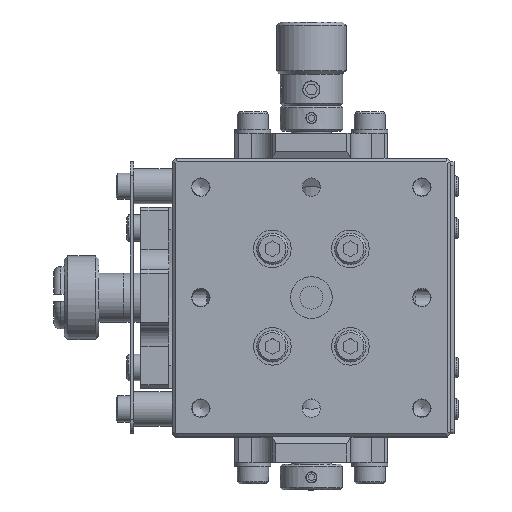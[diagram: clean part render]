
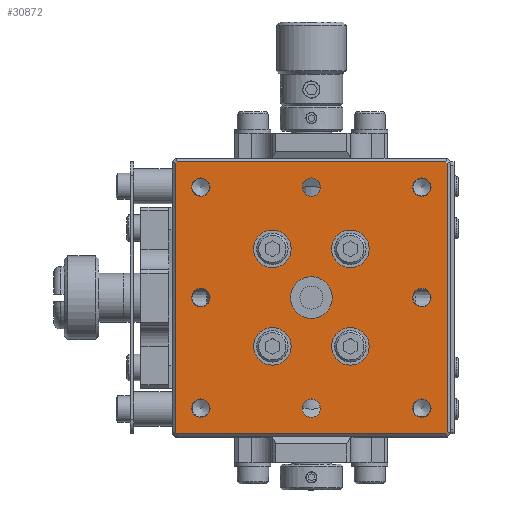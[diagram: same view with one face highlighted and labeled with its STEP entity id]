
A CAD part, top view. The second image highlights one B-rep face of the part: STEP entity #30872.
In plain terms, the highlighted planar face has unit normal (0, 0, 1).
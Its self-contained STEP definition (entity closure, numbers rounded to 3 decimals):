
#29542=CARTESIAN_POINT('',(3.,0.0,-20.0));
#29543=VERTEX_POINT('',#29542);
#29544=CARTESIAN_POINT('',(0.0,0.0,-20.0));
#29545=DIRECTION('',(0.0,0.0,-1.0));
#29546=DIRECTION('',(1.0,0.0,0.0));
#29547=AXIS2_PLACEMENT_3D('',#29544,#29545,#29546);
#29548=CIRCLE('',#29547,3.);
#29549=EDGE_CURVE('',#29543,#29543,#29548,.T.);
#29643=CARTESIAN_POINT('',(8.3,7.,-20.0));
#29644=VERTEX_POINT('',#29643);
#29645=CARTESIAN_POINT('',(5.6,7.,-20.0));
#29646=DIRECTION('',(0.0,0.0,-1.0));
#29647=DIRECTION('',(1.0,0.0,0.0));
#29648=AXIS2_PLACEMENT_3D('',#29645,#29646,#29647);
#29649=CIRCLE('',#29648,2.7);
#29650=EDGE_CURVE('',#29644,#29644,#29649,.T.);
#29712=CARTESIAN_POINT('',(-2.9,7.,-20.0));
#29713=VERTEX_POINT('',#29712);
#29714=CARTESIAN_POINT('',(-5.6,7.,-20.0));
#29715=DIRECTION('',(0.0,0.0,-1.0));
#29716=DIRECTION('',(1.0,0.0,0.0));
#29717=AXIS2_PLACEMENT_3D('',#29714,#29715,#29716);
#29718=CIRCLE('',#29717,2.7);
#29719=EDGE_CURVE('',#29713,#29713,#29718,.T.);
#29793=CARTESIAN_POINT('',(-8.3,-7.,-20.0));
#29794=VERTEX_POINT('',#29793);
#29795=CARTESIAN_POINT('',(-5.6,-7.,-20.0));
#29796=DIRECTION('',(0.0,0.0,-1.0));
#29797=DIRECTION('',(-1.0,0.0,0.0));
#29798=AXIS2_PLACEMENT_3D('',#29795,#29796,#29797);
#29799=CIRCLE('',#29798,2.7);
#29800=EDGE_CURVE('',#29794,#29794,#29799,.T.);
#29834=CARTESIAN_POINT('',(2.9,-7.,-20.0));
#29835=VERTEX_POINT('',#29834);
#29836=CARTESIAN_POINT('',(5.6,-7.,-20.0));
#29837=DIRECTION('',(0.0,0.0,-1.0));
#29838=DIRECTION('',(-1.0,0.0,0.0));
#29839=AXIS2_PLACEMENT_3D('',#29836,#29837,#29838);
#29840=CIRCLE('',#29839,2.7);
#29841=EDGE_CURVE('',#29835,#29835,#29840,.T.);
#29903=CARTESIAN_POINT('',(-14.554,-15.875,-20.0));
#29904=VERTEX_POINT('',#29903);
#29905=CARTESIAN_POINT('',(-15.875,-15.875,-20.0));
#29906=DIRECTION('',(0.0,0.0,-1.0));
#29907=DIRECTION('',(1.0,0.0,0.0));
#29908=AXIS2_PLACEMENT_3D('',#29905,#29906,#29907);
#29909=CIRCLE('',#29908,1.321);
#29910=EDGE_CURVE('',#29904,#29904,#29909,.T.);
#29988=CARTESIAN_POINT('',(15.875,-14.554,-20.0));
#29989=VERTEX_POINT('',#29988);
#29990=CARTESIAN_POINT('',(15.875,-15.875,-20.0));
#29991=DIRECTION('',(0.0,0.0,-1.0));
#29992=DIRECTION('',(0.0,1.0,0.0));
#29993=AXIS2_PLACEMENT_3D('',#29990,#29991,#29992);
#29994=CIRCLE('',#29993,1.321);
#29995=EDGE_CURVE('',#29989,#29989,#29994,.T.);
#30073=CARTESIAN_POINT('',(14.554,15.875,-20.0));
#30074=VERTEX_POINT('',#30073);
#30075=CARTESIAN_POINT('',(15.875,15.875,-20.0));
#30076=DIRECTION('',(0.0,0.0,-1.0));
#30077=DIRECTION('',(-1.0,0.0,0.0));
#30078=AXIS2_PLACEMENT_3D('',#30075,#30076,#30077);
#30079=CIRCLE('',#30078,1.321);
#30080=EDGE_CURVE('',#30074,#30074,#30079,.T.);
#30158=CARTESIAN_POINT('',(-15.875,14.554,-20.0));
#30159=VERTEX_POINT('',#30158);
#30160=CARTESIAN_POINT('',(-15.875,15.875,-20.0));
#30161=DIRECTION('',(0.0,0.0,-1.0));
#30162=DIRECTION('',(0.0,-1.0,0.0));
#30163=AXIS2_PLACEMENT_3D('',#30160,#30161,#30162);
#30164=CIRCLE('',#30163,1.321);
#30165=EDGE_CURVE('',#30159,#30159,#30164,.T.);
#30246=CARTESIAN_POINT('',(1.321,-15.875,-20.0));
#30247=VERTEX_POINT('',#30246);
#30248=CARTESIAN_POINT('',(0.0,-15.875,-20.0));
#30249=DIRECTION('',(0.0,0.0,-1.0));
#30250=DIRECTION('',(1.0,0.0,0.0));
#30251=AXIS2_PLACEMENT_3D('',#30248,#30249,#30250);
#30252=CIRCLE('',#30251,1.321);
#30253=EDGE_CURVE('',#30247,#30247,#30252,.T.);
#30287=CARTESIAN_POINT('',(-1.321,15.875,-20.0));
#30288=VERTEX_POINT('',#30287);
#30289=CARTESIAN_POINT('',(0.,15.875,-20.0));
#30290=DIRECTION('',(0.0,0.0,-1.0));
#30291=DIRECTION('',(-1.0,0.0,0.0));
#30292=AXIS2_PLACEMENT_3D('',#30289,#30290,#30291);
#30293=CIRCLE('',#30292,1.321);
#30294=EDGE_CURVE('',#30288,#30288,#30293,.T.);
#30466=CARTESIAN_POINT('',(17.196,0.0,-20.0));
#30467=VERTEX_POINT('',#30466);
#30468=CARTESIAN_POINT('',(15.875,0.0,-20.0));
#30469=DIRECTION('',(0.0,0.0,-1.0));
#30470=DIRECTION('',(1.0,0.0,0.0));
#30471=AXIS2_PLACEMENT_3D('',#30468,#30469,#30470);
#30472=CIRCLE('',#30471,1.321);
#30473=EDGE_CURVE('',#30467,#30467,#30472,.T.);
#30645=CARTESIAN_POINT('',(-17.196,0.,-20.0));
#30646=VERTEX_POINT('',#30645);
#30647=CARTESIAN_POINT('',(-15.875,0.,-20.0));
#30648=DIRECTION('',(0.0,0.0,-1.0));
#30649=DIRECTION('',(-1.0,0.0,0.0));
#30650=AXIS2_PLACEMENT_3D('',#30647,#30648,#30649);
#30651=CIRCLE('',#30650,1.321);
#30652=EDGE_CURVE('',#30646,#30646,#30651,.T.);
#30762=CARTESIAN_POINT('',(0.0,20.0,-20.0));
#30763=DIRECTION('',(0.0,0.0,1.0));
#30764=DIRECTION('',(1.0,0.0,0.0));
#30765=AXIS2_PLACEMENT_3D('',#30762,#30763,#30764);
#30766=PLANE('',#30765);
#30767=CARTESIAN_POINT('',(-19.293,-19.5,-20.0));
#30768=VERTEX_POINT('',#30767);
#30769=CARTESIAN_POINT('',(-19.5,-19.293,-20.0));
#30770=VERTEX_POINT('',#30769);
#30771=CARTESIAN_POINT('',(-19.293,-19.5,-20.0));
#30772=DIRECTION('',(-0.707,0.707,0.0));
#30773=VECTOR('',#30772,0.293);
#30774=LINE('',#30771,#30773);
#30775=EDGE_CURVE('',#30768,#30770,#30774,.T.);
#30776=ORIENTED_EDGE('',*,*,#30775,.F.);
#30777=CARTESIAN_POINT('',(19.293,-19.5,-20.0));
#30778=VERTEX_POINT('',#30777);
#30779=CARTESIAN_POINT('',(19.293,-19.5,-20.0));
#30780=DIRECTION('',(-1.0,0.0,0.0));
#30781=VECTOR('',#30780,38.586);
#30782=LINE('',#30779,#30781);
#30783=EDGE_CURVE('',#30778,#30768,#30782,.T.);
#30784=ORIENTED_EDGE('',*,*,#30783,.F.);
#30785=CARTESIAN_POINT('',(19.5,-19.293,-20.0));
#30786=VERTEX_POINT('',#30785);
#30787=CARTESIAN_POINT('',(19.5,-19.293,-20.0));
#30788=DIRECTION('',(-0.707,-0.707,0.0));
#30789=VECTOR('',#30788,0.293);
#30790=LINE('',#30787,#30789);
#30791=EDGE_CURVE('',#30786,#30778,#30790,.T.);
#30792=ORIENTED_EDGE('',*,*,#30791,.F.);
#30793=CARTESIAN_POINT('',(19.5,19.293,-20.0));
#30794=VERTEX_POINT('',#30793);
#30795=CARTESIAN_POINT('',(19.5,19.293,-20.0));
#30796=DIRECTION('',(0.0,-1.0,0.0));
#30797=VECTOR('',#30796,38.586);
#30798=LINE('',#30795,#30797);
#30799=EDGE_CURVE('',#30794,#30786,#30798,.T.);
#30800=ORIENTED_EDGE('',*,*,#30799,.F.);
#30801=CARTESIAN_POINT('',(19.293,19.5,-20.0));
#30802=VERTEX_POINT('',#30801);
#30803=CARTESIAN_POINT('',(19.293,19.5,-20.0));
#30804=DIRECTION('',(0.707,-0.707,0.0));
#30805=VECTOR('',#30804,0.293);
#30806=LINE('',#30803,#30805);
#30807=EDGE_CURVE('',#30802,#30794,#30806,.T.);
#30808=ORIENTED_EDGE('',*,*,#30807,.F.);
#30809=CARTESIAN_POINT('',(-19.293,19.5,-20.0));
#30810=VERTEX_POINT('',#30809);
#30811=CARTESIAN_POINT('',(-19.293,19.5,-20.0));
#30812=DIRECTION('',(1.0,0.0,0.0));
#30813=VECTOR('',#30812,38.586);
#30814=LINE('',#30811,#30813);
#30815=EDGE_CURVE('',#30810,#30802,#30814,.T.);
#30816=ORIENTED_EDGE('',*,*,#30815,.F.);
#30817=CARTESIAN_POINT('',(-19.5,19.293,-20.0));
#30818=VERTEX_POINT('',#30817);
#30819=CARTESIAN_POINT('',(-19.5,19.293,-20.0));
#30820=DIRECTION('',(0.707,0.707,0.0));
#30821=VECTOR('',#30820,0.293);
#30822=LINE('',#30819,#30821);
#30823=EDGE_CURVE('',#30818,#30810,#30822,.T.);
#30824=ORIENTED_EDGE('',*,*,#30823,.F.);
#30825=CARTESIAN_POINT('',(-19.5,-19.293,-20.0));
#30826=DIRECTION('',(0.0,1.0,0.0));
#30827=VECTOR('',#30826,38.586);
#30828=LINE('',#30825,#30827);
#30829=EDGE_CURVE('',#30770,#30818,#30828,.T.);
#30830=ORIENTED_EDGE('',*,*,#30829,.F.);
#30831=EDGE_LOOP('',(#30776,#30784,#30792,#30800,#30808,#30816,#30824,#30830));
#30832=FACE_OUTER_BOUND('',#30831,.T.);
#30833=ORIENTED_EDGE('',*,*,#30652,.T.);
#30834=EDGE_LOOP('',(#30833));
#30835=FACE_BOUND('',#30834,.T.);
#30836=ORIENTED_EDGE('',*,*,#30473,.T.);
#30837=EDGE_LOOP('',(#30836));
#30838=FACE_BOUND('',#30837,.T.);
#30839=ORIENTED_EDGE('',*,*,#30294,.T.);
#30840=EDGE_LOOP('',(#30839));
#30841=FACE_BOUND('',#30840,.T.);
#30842=ORIENTED_EDGE('',*,*,#30253,.T.);
#30843=EDGE_LOOP('',(#30842));
#30844=FACE_BOUND('',#30843,.T.);
#30845=ORIENTED_EDGE('',*,*,#30165,.T.);
#30846=EDGE_LOOP('',(#30845));
#30847=FACE_BOUND('',#30846,.T.);
#30848=ORIENTED_EDGE('',*,*,#30080,.T.);
#30849=EDGE_LOOP('',(#30848));
#30850=FACE_BOUND('',#30849,.T.);
#30851=ORIENTED_EDGE('',*,*,#29995,.T.);
#30852=EDGE_LOOP('',(#30851));
#30853=FACE_BOUND('',#30852,.T.);
#30854=ORIENTED_EDGE('',*,*,#29910,.T.);
#30855=EDGE_LOOP('',(#30854));
#30856=FACE_BOUND('',#30855,.T.);
#30857=ORIENTED_EDGE('',*,*,#29841,.T.);
#30858=EDGE_LOOP('',(#30857));
#30859=FACE_BOUND('',#30858,.T.);
#30860=ORIENTED_EDGE('',*,*,#29800,.T.);
#30861=EDGE_LOOP('',(#30860));
#30862=FACE_BOUND('',#30861,.T.);
#30863=ORIENTED_EDGE('',*,*,#29719,.T.);
#30864=EDGE_LOOP('',(#30863));
#30865=FACE_BOUND('',#30864,.T.);
#30866=ORIENTED_EDGE('',*,*,#29650,.T.);
#30867=EDGE_LOOP('',(#30866));
#30868=FACE_BOUND('',#30867,.T.);
#30869=ORIENTED_EDGE('',*,*,#29549,.T.);
#30870=EDGE_LOOP('',(#30869));
#30871=FACE_BOUND('',#30870,.T.);
#30872=ADVANCED_FACE('',(#30832,#30835,#30838,#30841,#30844,#30847,#30850,#30853,#30856,#30859,#30862,#30865,#30868,#30871),#30766,.T.);
